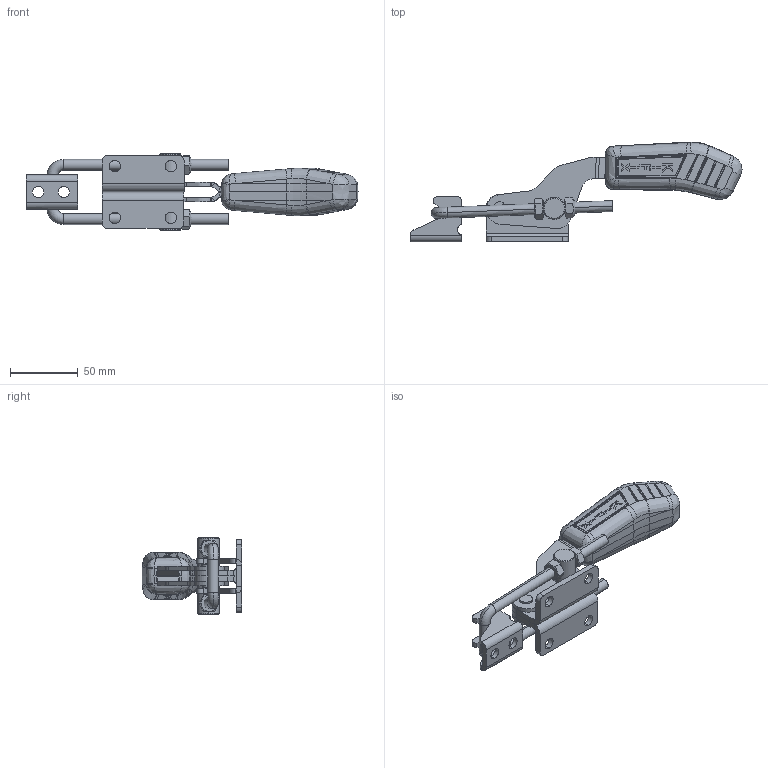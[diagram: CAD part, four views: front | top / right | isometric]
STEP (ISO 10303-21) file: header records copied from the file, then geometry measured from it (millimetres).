
FILE_DESCRIPTION (( 'STEP AP203' ), '1' );
FILE_NAME ('KF-143 D.STEP', '2017-07-20T11:50:34', ( 'Ricardo' ), ( '' ), 'SwSTEP 2.0', 'SolidWorks 2015', '' );
FILE_SCHEMA (( 'CONFIG_CONTROL_DESIGN' ));
Length unit declared in the file: millimetre
Products named in the file (12): 16.20101; 03.20006; 15.10168; 11.50017; 11.50002; 07.60002; 02.12181_Direita; 02.12181_Esquerda; 06.50049; 01.10290_Direita; KF-143 D; 01.10290_Esquerda
Assembly tree (13 placements, depth 2):
  KF-143 D
    02.12181_Direita
    02.12181_Esquerda
    01.10290_Direita
    01.10290_Esquerda
    16.20101
    03.20006
    15.10168
    11.50017  x2
    11.50002  x2
    07.60002
    06.50049
Bounding box: 244.82 x 73.67 x 56.5 mm (x, y, z)
Volume: 159404.2 mm3; surface area: 64420.4 mm2
Topology: 13 solids, 13 shells, 666 faces, 1694 edges, 1058 vertices
Faces by surface type: plane 236, bspline 167, cylinder 164, sphere 52, cone 38, torus 9
Entity records: 24736 total; most frequent: CARTESIAN_POINT 9659, ORIENTED_EDGE 3180, DIRECTION 2415, EDGE_CURVE 1590, VERTEX_POINT 998, AXIS2_PLACEMENT_3D 915, EDGE_LOOP 686, FACE_OUTER_BOUND 632
